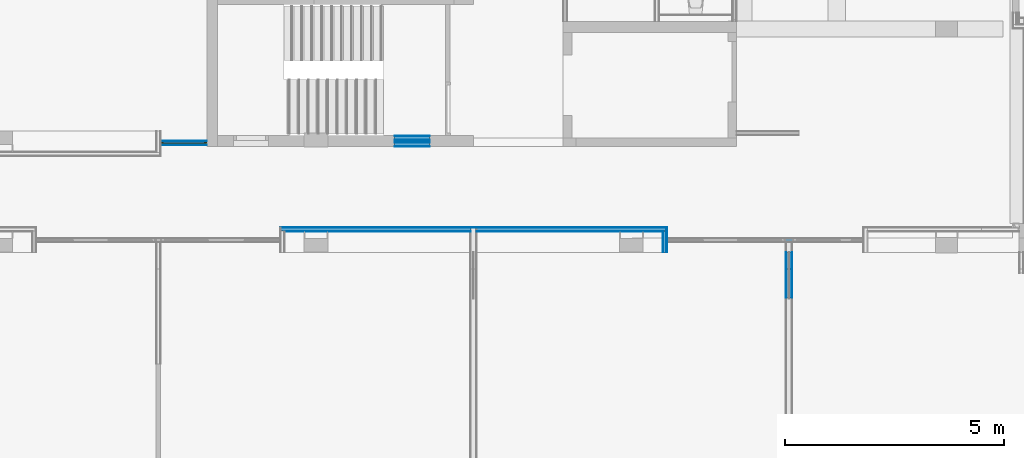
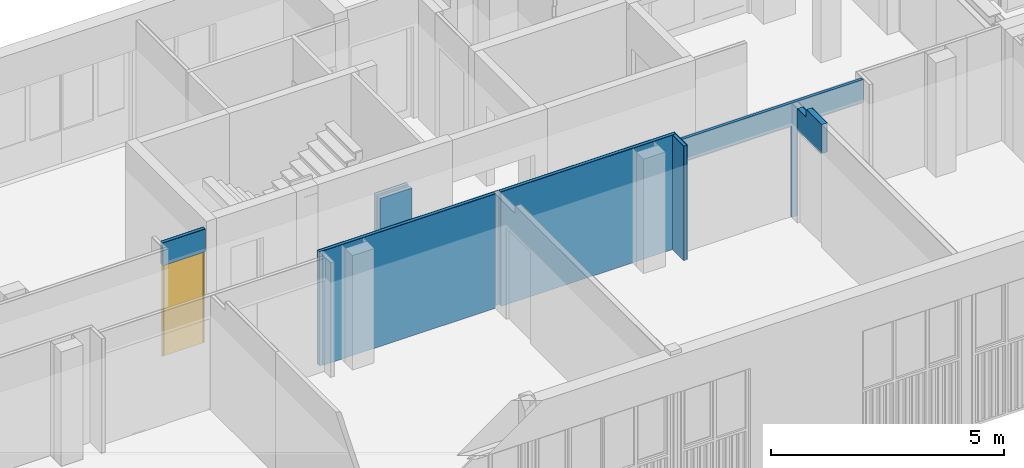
# One storey, part 74 of 117: 22 building element parts, 1 door, 3 openings, 8 elements without a shape of their own.
"""IFC2X3 building model written with IfcOpenShell, lengths in millimetres."""

from ifc_helpers import new_model, entity, si_unit, converted_unit, derived_unit, money_unit, direction, frame, origin_with_axes, place, context, subcontext, project, spatial, open_shell, faceted_brep, surface_model, material, type_object, element, fill, aggregate, save


model = new_model("IFC2X3")

# Units and contexts
model_context = context("Model", 3, precision=0.01, world=origin_with_axes(), true_north=direction((0.0, 1.0)))
body_context = subcontext(model_context, "Body", "Model", "MODEL_VIEW")
ifc_project = project(units=[si_unit("LENGTHUNIT", "METRE", prefix="MILLI"), si_unit("AREAUNIT", "SQUARE_METRE"), si_unit("VOLUMEUNIT", "CUBIC_METRE"), converted_unit("PLANEANGLEUNIT", "DEGREE", entity("IfcPlaneAngleMeasure", 0.0174532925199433), si_unit("PLANEANGLEUNIT", "RADIAN"), dimensions=[0, 0, 0, 0, 0, 0, 0]), money_unit("EUR"), converted_unit("TIMEUNIT", "Year", entity("IfcTimeMeasure", 31557600.0), si_unit("TIMEUNIT", "SECOND"), dimensions=[0, 0, 1, 0, 0, 0, 0]), si_unit("MASSUNIT", "GRAM", prefix="KILO"), si_unit("THERMODYNAMICTEMPERATUREUNIT", "DEGREE_CELSIUS"), si_unit("LUMINOUSINTENSITYUNIT", "LUMEN"), si_unit("ENERGYUNIT", "JOULE", prefix="MEGA"), derived_unit("THERMALCONDUCTANCEUNIT", [(si_unit("POWERUNIT", "WATT"), 1), (si_unit("LENGTHUNIT", "METRE"), -1), (si_unit("THERMODYNAMICTEMPERATUREUNIT", "KELVIN"), -1)]), derived_unit("SPECIFICHEATCAPACITYUNIT", [(si_unit("ENERGYUNIT", "JOULE"), 1), (si_unit("MASSUNIT", "GRAM", prefix="KILO"), -1), (si_unit("THERMODYNAMICTEMPERATUREUNIT", "KELVIN"), -1)]), derived_unit("MASSDENSITYUNIT", [(si_unit("MASSUNIT", "GRAM", prefix="KILO"), 1), (si_unit("VOLUMEUNIT", "CUBIC_METRE"), -1)])], contexts=[model_context])

# Site, building, storey
site_placement = place(None, origin_with_axes())
site = spatial("IfcSite", under=ifc_project, at=site_placement, Name="Site", CompositionType="ELEMENT")
building_placement = place(site_placement, origin_with_axes())
building = spatial("IfcBuilding", under=site, at=building_placement, Name="Naam gebouw", CompositionType="ELEMENT")
storey_placement = place(building_placement, frame((0.0, 0.0, 4150.0), z_axis=(0.0, 0.0, 1.0), x_axis=(1.0, 0.0, 0.0)))
storey = spatial("IfcBuildingStorey", under=building, at=storey_placement, Name="1e verdieping N", CompositionType="ELEMENT", Elevation=4150.0)

# Door
door_style = type_object("IfcDoorStyle", Name="D1 zl2 27", ConstructionType="NOTDEFINED", OperationType="USERDEFINED", ParameterTakesPrecedence=False, Sizeable=False)
wall_6_placement = place(storey_placement, frame((10850.0, 12825.85635739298, 0.0), z_axis=(0.0, 0.0, 1.0), x_axis=(1.0, 0.0, 0.0)))
opening_3_placement = place(wall_6_placement, frame((527.7502592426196, 0.0, 0.0), z_axis=(0.0, 0.0, 1.0), x_axis=(1.0, 0.0, 0.0)))
door_placement = place(opening_3_placement, frame((-527.7502592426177, 0.0, 0.0), z_axis=(0.0, 0.0, 1.0), x_axis=(1.0, 0.0, 0.0)))
door = element("IfcDoor", 1, at=door_placement, inside=storey, type_object=door_style, Name="_Merk-x", ObjectType="DOOR", OverallHeight=2400.0, OverallWidth=1055.5, context=body_context, shape_type="SurfaceModel", body=[
    faceted_brep([(0.0, 9.999999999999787, 0.0), (29.99999999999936, 9.999999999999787, 0.0), (29.99999999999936, -9.999999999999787, 0.0), (0.0, -9.999999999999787, 0.0), (0.0, 9.999999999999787, 2370.0), (29.99999999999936, 9.999999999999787, 2370.0), (29.99999999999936, 9.999999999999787, 30.00000000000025), (29.99999999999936, -9.999999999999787, 30.00000000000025), (29.99999999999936, -9.999999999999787, 2370.0), (0.0, -9.999999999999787, 2370.0)], [[[0, 1, 2, 3]], [[0, 4, 5, 6, 1]], [[1, 6, 7, 2]], [[3, 2, 7, 8, 9]], [[4, 0, 3, 9]], [[5, 4, 9, 8]], [[6, 5, 8, 7]]]),
    faceted_brep([(77.7881246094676, -9.000000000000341, 0.0), (77.7881246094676, -9.000000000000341, 2370.0), (77.7881246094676, -9.999999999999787, 2370.0), (77.7881246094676, -9.999999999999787, 0.0), (60.78812460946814, -9.000000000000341, 2370.0), (60.78812460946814, -9.000000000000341, 0.0), (60.78812460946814, 9.999999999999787, 2370.0), (47.78812460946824, 9.999999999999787, 2370.0), (47.78812460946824, -9.999999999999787, 2370.0), (47.78812460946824, -9.999999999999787, 0.0), (47.78812460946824, -9.999999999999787, 30.00000000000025), (47.78812460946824, 9.999999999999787, 0.0), (60.78812460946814, 9.999999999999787, 0.0), (47.78812460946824, 9.999999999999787, 30.00000000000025)], [[[0, 1, 2, 3]], [[4, 1, 0, 5]], [[4, 6, 7, 8, 2, 1]], [[9, 3, 2, 8, 10]], [[5, 0, 3, 9, 11, 12]], [[6, 4, 5, 12]], [[6, 12, 11, 13, 7]], [[13, 10, 8, 7]], [[11, 9, 10, 13]]]),
    faceted_brep([(29.99999999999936, 9.999999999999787, 30.00000000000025), (29.99999999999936, 9.999999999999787, 0.0), (29.99999999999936, -9.999999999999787, 0.0), (29.99999999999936, -9.999999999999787, 30.00000000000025), (47.78812460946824, 9.999999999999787, 30.00000000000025), (47.78812460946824, 9.999999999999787, 0.0), (47.78812460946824, -9.999999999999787, 0.0), (47.78812460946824, -9.999999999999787, 30.00000000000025)], [[[0, 1, 2, 3]], [[0, 4, 5, 1]], [[1, 5, 6, 2]], [[3, 2, 6, 7]], [[4, 0, 3, 7]], [[5, 4, 7, 6]]]),
    faceted_brep([(1055.500518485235, 9.999999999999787, 0.0), (1055.500518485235, 9.999999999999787, 2370.0), (1055.500518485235, -9.999999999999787, 2370.0), (1055.500518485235, -9.999999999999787, 0.0), (1025.500518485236, 9.999999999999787, 0.0), (1025.500518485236, 9.999999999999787, 30.00000000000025), (1025.500518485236, 9.999999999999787, 2370.0), (1025.500518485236, -9.999999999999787, 2370.0), (1025.500518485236, -9.999999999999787, 30.00000000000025), (1025.500518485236, -9.999999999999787, 0.0)], [[[0, 1, 2, 3]], [[0, 4, 5, 6, 1]], [[1, 6, 7, 2]], [[3, 2, 7, 8, 9]], [[4, 0, 3, 9]], [[5, 4, 9, 8]], [[6, 5, 8, 7]]]),
    faceted_brep([(994.7881246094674, -9.000000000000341, 2370.0), (977.788124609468, -9.000000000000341, 2370.0), (977.788124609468, -9.999999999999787, 2370.0), (1007.788124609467, -9.999999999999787, 2370.0), (1007.788124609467, 9.999999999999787, 2370.0), (994.7881246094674, 9.999999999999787, 2370.0), (994.7881246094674, -9.000000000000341, 0.0), (977.788124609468, -9.000000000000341, 0.0), (977.788124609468, -9.999999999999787, 0.0), (1007.788124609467, -9.999999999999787, 0.0), (1007.788124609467, -9.999999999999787, 30.00000000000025), (1007.788124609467, 9.999999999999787, 30.00000000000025), (994.7881246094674, 9.999999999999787, 0.0), (1007.788124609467, 9.999999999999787, 0.0)], [[[0, 1, 2, 3, 4, 5]], [[1, 0, 6, 7]], [[1, 7, 8, 2]], [[8, 9, 10, 3, 2]], [[4, 3, 10, 11]], [[12, 5, 4, 11, 13]], [[0, 5, 12, 6]], [[6, 12, 13, 9, 8, 7]], [[11, 10, 9, 13]]]),
    faceted_brep([(1007.788124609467, 9.999999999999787, 30.00000000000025), (1007.788124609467, 9.999999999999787, 0.0), (1007.788124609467, -9.999999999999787, 0.0), (1007.788124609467, -9.999999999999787, 30.00000000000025), (1025.500518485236, 9.999999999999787, 30.00000000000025), (1025.500518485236, 9.999999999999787, 0.0), (1025.500518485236, -9.999999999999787, 0.0), (1025.500518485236, -9.999999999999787, 30.00000000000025)], [[[0, 1, 2, 3]], [[0, 4, 5, 1]], [[1, 5, 6, 2]], [[3, 2, 6, 7]], [[4, 0, 3, 7]], [[5, 4, 7, 6]]]),
    faceted_brep([(60.78812460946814, 9.999999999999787, 2387.0), (60.78812460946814, 9.999999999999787, 2370.0), (47.78812460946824, 9.999999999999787, 2370.0), (29.99999999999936, 9.999999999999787, 2370.0), (0.0, 9.999999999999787, 2370.0), (0.0, 9.999999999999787, 2400.0), (1055.500518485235, 9.999999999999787, 2400.0), (1055.500518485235, 9.999999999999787, 2370.0), (1025.500518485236, 9.999999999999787, 2370.0), (1007.788124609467, 9.999999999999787, 2370.0), (994.7881246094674, 9.999999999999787, 2370.0), (994.7881246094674, 9.999999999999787, 2387.0), (60.78812460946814, -9.000000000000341, 2387.0), (60.78812460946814, -9.000000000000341, 2370.0), (977.788124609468, -9.000000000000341, 2370.0), (977.788124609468, -9.999999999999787, 2370.0), (77.7881246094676, -9.999999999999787, 2370.0), (47.78812460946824, -9.999999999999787, 2370.0), (29.99999999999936, -9.999999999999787, 2370.0), (0.0, -9.999999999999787, 2370.0), (0.0, -9.999999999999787, 2400.0), (1055.500518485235, -9.999999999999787, 2400.0), (1055.500518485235, -9.999999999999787, 2370.0), (1025.500518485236, -9.999999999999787, 2370.0), (994.7881246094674, -9.000000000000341, 2370.0), (1007.788124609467, -9.999999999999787, 2370.0), (994.7881246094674, -9.000000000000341, 2387.0)], [[[0, 1, 2, 3, 4, 5, 6, 7, 8, 9, 10, 11]], [[1, 0, 12, 13]], [[13, 14, 15, 16, 17, 2, 1]], [[2, 17, 18, 3]], [[3, 18, 19, 4]], [[4, 19, 20, 5]], [[5, 20, 21, 6]], [[6, 21, 22, 7]], [[7, 22, 23, 8]], [[24, 10, 9, 8, 23, 25, 15, 14]], [[11, 10, 24, 26]], [[0, 11, 26, 12]], [[24, 14, 13, 12, 26]], [[23, 22, 21, 20, 19, 18, 17, 16, 15, 25]]]),
    faceted_brep([(994.7881246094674, 0.9999999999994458, 0.0), (994.7881246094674, -9.000000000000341, 0.0), (60.78812460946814, -9.000000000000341, 0.0), (60.78812460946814, 0.9999999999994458, 0.0), (994.7881246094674, 0.9999999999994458, 2387.0), (994.7881246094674, -9.000000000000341, 2387.0), (60.78812460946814, -9.000000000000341, 2387.0), (60.78812460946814, 0.9999999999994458, 2387.0)], [[[0, 1, 2, 3]], [[4, 5, 1, 0]], [[1, 5, 6, 2]], [[3, 2, 6, 7]], [[0, 3, 7, 4]], [[7, 6, 5, 4]]]),
    surface_model("IfcShellBasedSurfaceModel", [(29.99999999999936, 9.000000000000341, 30.00000000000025), (29.99999999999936, 9.000000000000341, 2370.0), (47.78812460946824, 9.000000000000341, 2370.0), (47.78812460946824, 9.000000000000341, 30.00000000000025)], [open_shell([[[0, 1, 2, 3]]])]),
    surface_model("IfcShellBasedSurfaceModel", [(29.99999999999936, 0.9999999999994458, 30.00000000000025), (47.78812460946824, 0.9999999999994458, 30.00000000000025), (47.78812460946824, 0.9999999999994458, 2370.0), (29.99999999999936, 0.9999999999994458, 2370.0)], [open_shell([[[0, 1, 2, 3]]])]),
    surface_model("IfcShellBasedSurfaceModel", [(1007.788124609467, 9.000000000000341, 30.00000000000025), (1007.788124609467, 9.000000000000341, 2370.0), (1025.500518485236, 9.000000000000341, 2370.0), (1025.500518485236, 9.000000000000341, 30.00000000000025)], [open_shell([[[0, 1, 2, 3]]])]),
    surface_model("IfcShellBasedSurfaceModel", [(1007.788124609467, 0.9999999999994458, 30.00000000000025), (1025.500518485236, 0.9999999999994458, 30.00000000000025), (1025.500518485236, 0.9999999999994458, 2370.0), (1007.788124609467, 0.9999999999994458, 2370.0)], [open_shell([[[0, 1, 2, 3]]])]),
])

# Wall, building element parts
wall_type_1 = type_object("IfcWallType", Name="Metalstud iso 100 100", PredefinedType="NOTDEFINED")
wall_1_placement = place(storey_placement, frame((18075.0, 10805.91242510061, 0.0), z_axis=(0.0, 0.0, 1.0), x_axis=(1.0, 0.0, 0.0)))
wall_1 = element("IfcWall", 2, at=wall_1_placement, inside=storey, type_object=wall_type_1, Name="_Wand-x")
ifc_material_1 = material(Name="Gipsplaat")
building_element_part_1_placement = place(wall_1_placement, origin_with_axes())
building_element_part_1 = element("IfcBuildingElementPart", 3, at=building_element_part_1_placement, material=ifc_material_1, Name="Gipsplaat", context=body_context, shape_type="Brep", body=[
    faceted_brep([(0.0, 99.99999999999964, 2990.000000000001), (4340.000000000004, 99.99999999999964, 2990.000000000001), (4340.000000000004, 99.99999999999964, 0.0), (0.0, 99.99999999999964, 0.0), (4340.000000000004, 87.50000000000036, 2990.000000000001), (0.0, 87.50000000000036, 2990.000000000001), (4340.000000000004, 87.50000000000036, 0.0), (0.0, 87.50000000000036, 0.0)], [[[0, 1, 2, 3]], [[4, 1, 0, 5]], [[1, 4, 6, 2]], [[2, 6, 7, 3]], [[5, 0, 3, 7]], [[4, 5, 7, 6]]]),
])
building_element_part_2_placement = place(wall_1_placement, origin_with_axes())
building_element_part_2 = element("IfcBuildingElementPart", 4, at=building_element_part_2_placement, material=ifc_material_1, Name="Gipsplaat", context=body_context, shape_type="Brep", body=[
    faceted_brep([(0.0, 12.50000000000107, 2990.000000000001), (4252.500000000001, 12.50000000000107, 2990.000000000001), (4252.500000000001, 12.50000000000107, 0.0), (0.0, 12.49999999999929, 0.0), (4252.500000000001, 0.0, 2990.000000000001), (0.0, 0.0, 2990.000000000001), (4252.500000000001, 0.0, 0.0), (0.0, 0.0, 0.0)], [[[0, 1, 2, 3]], [[4, 1, 0, 5]], [[1, 4, 6, 2]], [[2, 6, 7, 3]], [[5, 0, 3, 7]], [[4, 5, 7, 6]]]),
])
ifc_material_2 = material(Name="Isolatie - Steenwol LSW")
building_element_part_3_placement = place(wall_1_placement, origin_with_axes())
building_element_part_3 = element("IfcBuildingElementPart", 5, at=building_element_part_3_placement, material=ifc_material_2, Name="Isolatie - Steenwol LSW", context=body_context, shape_type="Brep", body=[
    faceted_brep([(0.0, 87.50000000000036, 2990.000000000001), (4327.500000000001, 87.50000000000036, 2990.000000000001), (4327.500000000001, 87.50000000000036, 0.0), (0.0, 87.50000000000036, 0.0), (4327.500000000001, 12.50000000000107, 2990.000000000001), (0.0, 12.50000000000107, 2990.000000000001), (4327.500000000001, 12.50000000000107, 0.0), (0.0, 12.49999999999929, 0.0)], [[[0, 1, 2, 3]], [[4, 1, 0, 5]], [[1, 4, 6, 2]], [[2, 6, 7, 3]], [[5, 0, 3, 7]], [[4, 5, 7, 6]]]),
])
aggregate(wall_1, [building_element_part_1, building_element_part_2, building_element_part_3])

wall_2_placement = place(storey_placement, frame((22315.0, 10330.91242510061, 0.0), z_axis=(0.0, 0.0, 1.0), x_axis=(0.0, 1.0, 0.0)))
wall_2 = element("IfcWall", 6, at=wall_2_placement, inside=storey, type_object=wall_type_1, Name="_Wand-x")
building_element_part_4_placement = place(wall_2_placement, origin_with_axes())
building_element_part_4 = element("IfcBuildingElementPart", 7, at=building_element_part_4_placement, material=ifc_material_1, Name="Gipsplaat", context=body_context, shape_type="Brep", body=[
    faceted_brep([(474.9999999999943, 0.0, 2990.000000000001), (474.9999999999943, -12.49999999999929, 2990.000000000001), (474.9999999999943, -12.49999999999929, 0.0), (474.9999999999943, 0.0, 0.0), (0.0, -12.49999999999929, 2990.000000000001), (0.0, 0.0, 2990.000000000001), (0.0, -12.49999999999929, 0.0), (0.0, 0.0, 0.0)], [[[0, 1, 2, 3]], [[4, 1, 0, 5]], [[1, 4, 6, 2]], [[3, 2, 6, 7]], [[5, 0, 3, 7]], [[4, 5, 7, 6]]]),
])
building_element_part_5_placement = place(wall_2_placement, origin_with_axes())
building_element_part_5 = element("IfcBuildingElementPart", 8, at=building_element_part_5_placement, material=ifc_material_1, Name="Gipsplaat", context=body_context, shape_type="Brep", body=[
    faceted_brep([(562.4999999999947, -87.49999999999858, 2990.000000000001), (562.4999999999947, -100.0000000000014, 2990.000000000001), (562.4999999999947, -100.0000000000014, 0.0), (562.4999999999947, -87.49999999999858, 0.0), (0.0, -100.0000000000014, 2990.000000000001), (0.0, -87.49999999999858, 2990.000000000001), (0.0, -100.0000000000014, 0.0), (0.0, -87.49999999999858, 0.0)], [[[0, 1, 2, 3]], [[4, 1, 0, 5]], [[1, 4, 6, 2]], [[3, 2, 6, 7]], [[5, 0, 3, 7]], [[4, 5, 7, 6]]]),
])
building_element_part_6_placement = place(wall_2_placement, origin_with_axes())
building_element_part_6 = element("IfcBuildingElementPart", 9, at=building_element_part_6_placement, material=ifc_material_2, Name="Isolatie - Steenwol LSW", context=body_context, shape_type="Brep", body=[
    faceted_brep([(487.4999999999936, -12.49999999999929, 2990.000000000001), (487.4999999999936, -87.49999999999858, 2990.000000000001), (487.4999999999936, -87.49999999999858, 0.0), (487.4999999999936, -12.49999999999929, 0.0), (0.0, -87.49999999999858, 2990.000000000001), (0.0, -12.49999999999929, 2990.000000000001), (0.0, -87.49999999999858, 0.0), (0.0, -12.49999999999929, 0.0)], [[[0, 1, 2, 3]], [[4, 1, 0, 5]], [[1, 4, 6, 2]], [[3, 2, 6, 7]], [[5, 0, 3, 7]], [[4, 5, 7, 6]]]),
])
aggregate(wall_2, [building_element_part_4, building_element_part_5, building_element_part_6])

wall_3_placement = place(storey_placement, frame((16196.75079845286, 12894.60803964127, 799.9999999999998), z_axis=(0.0, 0.0, 1.0), x_axis=(1.0, 0.0, 0.0)))
wall_3 = element("IfcWall", 10, at=wall_3_placement, inside=storey, type_object=wall_type_1, Name="_Wand-x")
building_element_part_7_placement = place(wall_3_placement, origin_with_axes())
building_element_part_7 = element("IfcBuildingElementPart", 11, at=building_element_part_7_placement, material=ifc_material_1, Name="Gipsplaat", context=body_context, shape_type="Brep", body=[
    faceted_brep([(800.0000000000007, 87.50000000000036, 1500.0), (800.0000000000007, 99.99999999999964, 1500.0), (0.0, 99.99999999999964, 1500.0), (0.0, 87.50000000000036, 1500.0), (800.0000000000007, 87.50000000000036, 0.0), (800.0000000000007, 99.99999999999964, 0.0), (0.0, 99.99999999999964, 0.0), (0.0, 87.50000000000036, 0.0)], [[[0, 1, 2, 3]], [[0, 4, 5, 1]], [[1, 5, 6, 2]], [[3, 2, 6, 7]], [[4, 0, 3, 7]], [[5, 4, 7, 6]]]),
])
building_element_part_8_placement = place(wall_3_placement, origin_with_axes())
building_element_part_8 = element("IfcBuildingElementPart", 12, at=building_element_part_8_placement, material=ifc_material_2, Name="Isolatie - Steenwol LSW", context=body_context, shape_type="Brep", body=[
    faceted_brep([(800.0000000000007, 12.49999999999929, 1500.0), (800.0000000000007, 87.50000000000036, 1500.0), (0.0, 87.50000000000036, 1500.0), (0.0, 12.49999999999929, 1500.0), (800.0000000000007, 12.49999999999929, 0.0), (800.0000000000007, 87.50000000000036, 0.0), (0.0, 87.50000000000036, 0.0), (0.0, 12.49999999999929, 0.0)], [[[0, 1, 2, 3]], [[0, 4, 5, 1]], [[1, 5, 6, 2]], [[3, 2, 6, 7]], [[4, 0, 3, 7]], [[5, 4, 7, 6]]]),
])
building_element_part_9_placement = place(wall_3_placement, origin_with_axes())
building_element_part_9 = element("IfcBuildingElementPart", 13, at=building_element_part_9_placement, material=ifc_material_1, Name="Gipsplaat", context=body_context, shape_type="Brep", body=[
    faceted_brep([(800.0000000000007, 0.0, 1500.0), (800.0000000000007, 12.49999999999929, 1500.0), (0.0, 12.49999999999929, 1500.0), (0.0, 0.0, 1500.0), (800.0000000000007, 0.0, 0.0), (800.0000000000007, 12.49999999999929, 0.0), (0.0, 12.49999999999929, 0.0), (0.0, 0.0, 0.0)], [[[0, 1, 2, 3]], [[0, 4, 5, 1]], [[1, 5, 6, 2]], [[3, 2, 6, 7]], [[4, 0, 3, 7]], [[5, 4, 7, 6]]]),
])
aggregate(wall_3, [building_element_part_7, building_element_part_8, building_element_part_9])

wall_4_placement = place(storey_placement, frame((17925.0, 10805.91242510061, 0.0), z_axis=(0.0, 0.0, 1.0), x_axis=(-1.0, 0.0, 0.0)))
wall_4 = element("IfcWall", 14, at=wall_4_placement, inside=storey, type_object=wall_type_1, Name="_Wand-x")
building_element_part_10_placement = place(wall_4_placement, origin_with_axes())
building_element_part_10 = element("IfcBuildingElementPart", 15, at=building_element_part_10_placement, material=ifc_material_1, Name="Gipsplaat", context=body_context, shape_type="Brep", body=[
    faceted_brep([(4252.500000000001, -12.49999999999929, 2990.000000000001), (-12.50000000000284, -12.49999999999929, 2990.000000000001), (-12.50000000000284, -12.49999999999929, 0.0), (4252.500000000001, -12.50000000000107, 0.0), (-12.50000000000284, 0.0, 2990.000000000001), (4252.500000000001, 0.0, 2990.000000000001), (-12.50000000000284, 0.0, 0.0), (4252.500000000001, 0.0, 0.0)], [[[0, 1, 2, 3]], [[4, 1, 0, 5]], [[1, 4, 6, 2]], [[7, 3, 2, 6]], [[5, 0, 3, 7]], [[4, 5, 7, 6]]]),
])
building_element_part_11_placement = place(wall_4_placement, origin_with_axes())
building_element_part_11 = element("IfcBuildingElementPart", 16, at=building_element_part_11_placement, material=ifc_material_2, Name="Isolatie - Steenwol LSW", context=body_context, shape_type="Brep", body=[
    faceted_brep([(4327.500000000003, -87.50000000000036, 2990.000000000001), (-12.50000000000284, -87.50000000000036, 2990.000000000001), (-12.50000000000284, -87.50000000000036, 0.0), (4327.500000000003, -87.50000000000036, 0.0), (-12.50000000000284, -12.49999999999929, 2990.000000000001), (4327.500000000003, -12.49999999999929, 2990.000000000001), (-12.50000000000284, -12.49999999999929, 0.0), (4327.500000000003, -12.50000000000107, 0.0)], [[[0, 1, 2, 3]], [[4, 1, 0, 5]], [[1, 4, 6, 2]], [[7, 3, 2, 6]], [[5, 0, 3, 7]], [[4, 5, 7, 6]]]),
])
building_element_part_12_placement = place(wall_4_placement, origin_with_axes())
building_element_part_12 = element("IfcBuildingElementPart", 17, at=building_element_part_12_placement, material=ifc_material_1, Name="Gipsplaat", context=body_context, shape_type="Brep", body=[
    faceted_brep([(4340.000000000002, -99.99999999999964, 2990.000000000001), (-150.0000000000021, -99.99999999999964, 2990.000000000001), (-150.0000000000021, -99.99999999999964, 0.0), (4340.000000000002, -99.99999999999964, 0.0), (-150.0000000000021, -87.50000000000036, 2990.000000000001), (4340.000000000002, -87.50000000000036, 2990.000000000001), (-150.0000000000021, -87.50000000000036, 0.0), (4340.000000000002, -87.50000000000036, 0.0)], [[[0, 1, 2, 3]], [[4, 1, 0, 5]], [[1, 4, 6, 2]], [[7, 3, 2, 6]], [[5, 0, 3, 7]], [[4, 5, 7, 6]]]),
])
aggregate(wall_4, [building_element_part_10, building_element_part_11, building_element_part_12])

# Wall, openings, building element part
wall_5_placement = place(storey_placement, frame((22415.00000000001, 10605.91242510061, 0.0), z_axis=(0.0, 0.0, 1.0), x_axis=(1.0, 0.0, 0.0)))
wall_5 = element("IfcWall", 18, at=wall_5_placement, inside=storey, type_object=wall_type_1, Name="_Wand-x")
opening_1_placement = place(wall_5_placement, frame((3672.499999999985, 0.0, 0.0), z_axis=(0.0, 0.0, 1.0), x_axis=(1.0, 0.0, 0.0)))
element("IfcOpeningElement", 19, at=opening_1_placement, cuts=wall_5, Name="_Merk-x", context=body_context, shape_type="Brep", body=[
    faceted_brep([(-812.5, 9.999999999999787, 0.0), (-812.5, 9.999999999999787, 2400.0), (-812.5, 51.00000000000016, 2400.0), (-812.5, 51.00000000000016, 0.0), (-812.5, -51.00000000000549, 0.0), (-812.5, -51.00000000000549, 2400.0), (812.5, 9.999999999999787, 2400.0), (812.5, 51.00000000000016, 2400.0), (812.5, -51.00000000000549, 2400.0), (812.5, 51.00000000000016, 0.0), (812.5, 9.99999999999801, 0.0), (812.5, -51.00000000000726, 0.0)], [[[0, 1, 2, 3]], [[1, 0, 4, 5]], [[6, 7, 2, 1, 5, 8]], [[7, 9, 3, 2]], [[0, 3, 9, 10, 11, 4]], [[5, 4, 11, 8]], [[6, 10, 9, 7]], [[10, 6, 8, 11]]]),
])
opening_2_placement = place(wall_5_placement, frame((1354.999999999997, 0.0, 0.0), z_axis=(0.0, 0.0, 1.0), x_axis=(1.0, 0.0, 0.0)))
element("IfcOpeningElement", 20, at=opening_2_placement, cuts=wall_5, Name="_Merk-x", context=body_context, shape_type="Brep", body=[
    faceted_brep([(-1354.999999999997, 9.999999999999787, 0.0), (-1354.999999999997, 9.999999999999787, 2400.0), (-1354.999999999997, 51.00000000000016, 2400.0), (-1354.999999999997, 51.00000000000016, 0.0), (-1354.999999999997, -51.00000000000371, 0.0), (-1354.999999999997, -51.00000000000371, 2400.0), (1354.999999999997, 9.999999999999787, 2400.0), (1354.999999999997, 51.00000000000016, 2400.0), (1354.999999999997, -51.00000000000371, 2400.0), (1354.999999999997, 51.00000000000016, 0.0), (1354.999999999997, 9.99999999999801, 0.0), (1354.999999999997, -51.00000000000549, 0.0)], [[[0, 1, 2, 3]], [[1, 0, 4, 5]], [[6, 7, 2, 1, 5, 8]], [[7, 9, 3, 2]], [[0, 3, 9, 10, 11, 4]], [[5, 4, 11, 8]], [[6, 10, 9, 7]], [[10, 6, 8, 11]]]),
])
building_element_part_13_placement = place(wall_5_placement, origin_with_axes())
building_element_part_13 = element("IfcBuildingElementPart", 21, at=building_element_part_13_placement, material=ifc_material_2, Name="Isolatie - Steenwol LSW", context=body_context, shape_type="Brep", body=[
    faceted_brep([(2709.999999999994, 9.99999999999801, 0.0), (2709.999999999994, -37.49999999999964, 0.0), (2709.999999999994, -37.49999999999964, 2400.0), (2709.999999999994, 37.49999999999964, 2400.0), (2709.999999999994, 37.49999999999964, 0.0), (2859.999999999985, 37.49999999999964, 0.0), (2859.999999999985, -37.49999999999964, 0.0), (2859.999999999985, -37.49999999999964, 2400.0), (4484.999999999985, -37.49999999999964, 2400.0), (4484.999997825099, -37.49999999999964, 2990.000000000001), (0.0, -37.49999999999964, 2990.000000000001), (0.0, -37.49999999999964, 2400.0), (0.0, 9.999999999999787, 2400.0), (0.0, 37.49999999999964, 2400.0), (2859.999999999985, 37.49999999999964, 2400.0), (0.0, 37.49999999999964, 2990.000000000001), (4484.999997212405, 37.49999999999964, 2990.000000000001), (4484.999999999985, 37.49999999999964, 2400.0)], [[[0, 1, 2, 3, 4]], [[1, 0, 4, 5, 6]], [[2, 1, 6, 7, 8, 9, 10, 11]], [[3, 2, 11, 12, 13]], [[14, 5, 4, 3, 13, 15, 16, 17]], [[5, 14, 7, 6]], [[14, 17, 8, 7]], [[16, 9, 8, 17]], [[9, 16, 15, 10]], [[12, 11, 10, 15, 13]]]),
])
aggregate(wall_5, [building_element_part_13])

# Wall, opening
wall_6 = element("IfcWall", 22, at=wall_6_placement, inside=storey, type_object=wall_type_1, Name="_Wand-x")
opening_3 = element("IfcOpeningElement", 23, at=opening_3_placement, cuts=wall_6, Name="_Merk-x", context=body_context, shape_type="Brep", body=[
    faceted_brep([(527.7502592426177, -10.00000000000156, 0.0), (527.7502592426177, -9.999999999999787, 2400.0), (527.7502592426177, -51.00000000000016, 2400.0), (527.7502592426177, -51.00000000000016, 0.0), (527.7502592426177, 51.00000000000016, 0.0), (527.7502592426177, 51.00000000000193, 2400.0), (-527.7502592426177, -9.999999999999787, 2400.0), (-527.7502592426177, -51.00000000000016, 2400.0), (-527.7502592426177, 51.00000000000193, 2400.0), (-527.7502592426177, -51.00000000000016, 0.0), (-527.7502592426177, -10.00000000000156, 0.0), (-527.7502592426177, 51.00000000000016, 0.0)], [[[0, 1, 2, 3]], [[1, 0, 4, 5]], [[6, 7, 2, 1, 5, 8]], [[7, 9, 3, 2]], [[0, 3, 9, 10, 11, 4]], [[5, 4, 11, 8]], [[6, 10, 9, 7]], [[10, 6, 8, 11]]]),
])

fill(opening_3, door)

# Building element part
building_element_part_14_placement = place(wall_6_placement, origin_with_axes())
building_element_part_14 = element("IfcBuildingElementPart", 24, at=building_element_part_14_placement, material=ifc_material_2, Name="Isolatie - Steenwol LSW", context=body_context, shape_type="Brep", body=[
    faceted_brep([(1055.500518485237, -9.999999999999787, 2400.0), (1055.500518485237, 37.49999999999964, 2400.0), (1055.500518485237, 37.49999999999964, 2990.000000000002), (1055.500518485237, -37.49999999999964, 2990.000000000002), (1055.500518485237, -37.49999999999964, 2400.0), (0.0, -9.999999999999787, 2400.0), (0.0, 37.49999999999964, 2400.0), (0.0, -37.49999999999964, 2400.0), (0.0, 37.49999999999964, 2990.000000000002), (0.0, -37.49999999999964, 2990.000000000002)], [[[0, 1, 2, 3, 4]], [[5, 6, 1, 0, 4, 7]], [[1, 6, 8, 2]], [[8, 9, 3, 2]], [[4, 3, 9, 7]], [[6, 5, 7, 9, 8]]]),
])

building_element_part_15_placement = place(wall_6_placement, origin_with_axes())
building_element_part_15 = element("IfcBuildingElementPart", 25, at=building_element_part_15_placement, material=ifc_material_1, Name="Gipsplaat", context=body_context, shape_type="Brep", body=[
    faceted_brep([(1055.500518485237, -49.99999999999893, 2400.0), (1055.500518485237, -37.49999999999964, 2400.0), (1055.500518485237, -37.49999999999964, 2990.000000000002), (1055.500518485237, -49.99999999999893, 2990.000000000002), (0.0, -37.49999999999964, 2400.0), (0.0, -49.99999999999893, 2400.0), (0.0, -37.49999999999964, 2990.000000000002), (0.0, -49.99999999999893, 2990.000000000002)], [[[0, 1, 2, 3]], [[4, 1, 0, 5]], [[1, 4, 6, 2]], [[2, 6, 7, 3]], [[5, 0, 3, 7]], [[4, 5, 7, 6]]]),
])

building_element_part_16_placement = place(wall_6_placement, origin_with_axes())
building_element_part_16 = element("IfcBuildingElementPart", 26, at=building_element_part_16_placement, material=ifc_material_1, Name="Gipsplaat", context=body_context, shape_type="Brep", body=[
    faceted_brep([(1055.500518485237, 37.49999999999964, 2400.0), (1055.500518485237, 50.00000000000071, 2400.0), (1055.500518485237, 50.00000000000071, 2990.000000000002), (1055.500518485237, 37.49999999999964, 2990.000000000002), (0.0, 50.00000000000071, 2400.0), (0.0, 37.49999999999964, 2400.0), (0.0, 50.00000000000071, 2990.000000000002), (0.0, 37.49999999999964, 2990.000000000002)], [[[0, 1, 2, 3]], [[4, 1, 0, 5]], [[1, 4, 6, 2]], [[2, 6, 7, 3]], [[5, 0, 3, 7]], [[4, 5, 7, 6]]]),
])

aggregate(wall_6, [building_element_part_14, building_element_part_15, building_element_part_16])

# Wall, building element parts
wall_type_2 = type_object("IfcWallType", Name="Metalstud iso 150 150", PredefinedType="NOTDEFINED")
wall_7_placement = place(storey_placement, frame((25200.0, 9290.91242510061, 2440.0), z_axis=(0.0, 0.0, 1.0), x_axis=(0.0, 1.0, 0.0)))
wall_7 = element("IfcWall", 27, at=wall_7_placement, inside=storey, type_object=wall_type_2, Name="_Wand-x")
building_element_part_17_placement = place(wall_7_placement, origin_with_axes())
building_element_part_17 = element("IfcBuildingElementPart", 28, at=building_element_part_17_placement, material=ifc_material_1, Name="Gipsplaat", context=body_context, shape_type="Brep", body=[
    faceted_brep([(1040.000000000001, 74.99999999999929, 550.0000000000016), (1040.000000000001, 62.5, 550.0000000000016), (1040.000000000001, 62.5, 0.0), (1040.000000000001, 74.99999999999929, 0.0), (655.0000000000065, 62.5, 550.0000000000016), (655.0000000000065, 74.99999999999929, 550.0000000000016), (655.0000000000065, 62.5, 760.0000000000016), (0.0, 62.5, 760.0000000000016), (0.0, 62.5, 0.0), (0.0, 74.99999999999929, 0.0), (0.0, 74.99999999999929, 760.0000000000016), (655.0000000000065, 74.99999999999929, 760.0000000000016)], [[[0, 1, 2, 3]], [[4, 1, 0, 5]], [[4, 6, 7, 8, 2, 1]], [[9, 3, 2, 8]], [[5, 0, 3, 9, 10, 11]], [[11, 6, 4, 5]], [[6, 11, 10, 7]], [[10, 9, 8, 7]]]),
])
building_element_part_18_placement = place(wall_7_placement, origin_with_axes())
building_element_part_18 = element("IfcBuildingElementPart", 29, at=building_element_part_18_placement, material=ifc_material_2, Name="Isolatie - Steenwol LSW", context=body_context, shape_type="Brep", body=[
    faceted_brep([(1040.000000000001, 62.5, 550.0000000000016), (1040.000000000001, -62.5, 550.0000000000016), (1040.000000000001, -62.5, 0.0), (1040.000000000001, 62.5, 0.0), (655.0000000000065, -62.5, 550.0000000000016), (655.0000000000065, 62.5, 550.0000000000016), (655.0000000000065, -62.5, 760.0000000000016), (0.0, -62.5, 760.0000000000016), (0.0, -62.5, 0.0), (0.0, 62.5, 0.0), (0.0, 62.5, 760.0000000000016), (655.0000000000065, 62.5, 760.0000000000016)], [[[0, 1, 2, 3]], [[4, 1, 0, 5]], [[4, 6, 7, 8, 2, 1]], [[9, 3, 2, 8]], [[5, 0, 3, 9, 10, 11]], [[11, 6, 4, 5]], [[6, 11, 10, 7]], [[10, 9, 8, 7]]]),
])
building_element_part_19_placement = place(wall_7_placement, origin_with_axes())
building_element_part_19 = element("IfcBuildingElementPart", 30, at=building_element_part_19_placement, material=ifc_material_1, Name="Gipsplaat", context=body_context, shape_type="Brep", body=[
    faceted_brep([(1040.000000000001, -62.5, 550.0000000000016), (1040.000000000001, -74.99999999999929, 550.0000000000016), (1040.000000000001, -74.99999999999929, 0.0), (1040.000000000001, -62.5, 0.0), (655.0000000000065, -74.99999999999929, 550.0000000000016), (655.0000000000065, -62.5, 550.0000000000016), (655.0000000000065, -74.99999999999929, 760.0000000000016), (0.0, -74.99999999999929, 760.0000000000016), (0.0, -74.99999999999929, 0.0), (0.0, -62.5, 0.0), (0.0, -62.5, 760.0000000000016), (655.0000000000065, -62.5, 760.0000000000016)], [[[0, 1, 2, 3]], [[4, 1, 0, 5]], [[4, 6, 7, 8, 2, 1]], [[9, 3, 2, 8]], [[5, 0, 3, 9, 10, 11]], [[11, 6, 4, 5]], [[6, 11, 10, 7]], [[10, 9, 8, 7]]]),
])
aggregate(wall_7, [building_element_part_17, building_element_part_18, building_element_part_19])

wall_8_placement = place(storey_placement, frame((16196.75079845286, 12844.60803964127, 799.9999999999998), z_axis=(0.0, 0.0, 1.0), x_axis=(1.0, 0.0, 0.0)))
wall_8 = element("IfcWall", 31, at=wall_8_placement, inside=storey, type_object=wall_type_1, Name="_Wand-x")
building_element_part_20_placement = place(wall_8_placement, origin_with_axes())
building_element_part_20 = element("IfcBuildingElementPart", 32, at=building_element_part_20_placement, material=ifc_material_1, Name="Gipsplaat", context=body_context, shape_type="Brep", body=[
    faceted_brep([(800.0000000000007, 0.0, 0.0), (800.0000000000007, -12.49999999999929, 0.0), (0.0, -12.49999999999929, 0.0), (0.0, 0.0, 0.0), (800.0000000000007, 0.0, 1500.0), (800.0000000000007, -12.49999999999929, 1500.0), (0.0, -12.49999999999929, 1500.0), (0.0, 0.0, 1500.0)], [[[0, 1, 2, 3]], [[0, 4, 5, 1]], [[1, 5, 6, 2]], [[3, 2, 6, 7]], [[4, 0, 3, 7]], [[5, 4, 7, 6]]]),
])
building_element_part_21_placement = place(wall_8_placement, origin_with_axes())
building_element_part_21 = element("IfcBuildingElementPart", 33, at=building_element_part_21_placement, material=ifc_material_1, Name="Gipsplaat", context=body_context, shape_type="Brep", body=[
    faceted_brep([(800.0000000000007, -87.50000000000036, 0.0), (800.0000000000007, -99.99999999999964, 0.0), (0.0, -99.99999999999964, 0.0), (0.0, -87.50000000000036, 0.0), (800.0000000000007, -87.50000000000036, 1500.0), (800.0000000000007, -99.99999999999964, 1500.0), (0.0, -99.99999999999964, 1500.0), (0.0, -87.50000000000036, 1500.0)], [[[0, 1, 2, 3]], [[0, 4, 5, 1]], [[1, 5, 6, 2]], [[3, 2, 6, 7]], [[4, 0, 3, 7]], [[5, 4, 7, 6]]]),
])
building_element_part_22_placement = place(wall_8_placement, origin_with_axes())
building_element_part_22 = element("IfcBuildingElementPart", 34, at=building_element_part_22_placement, material=ifc_material_2, Name="Isolatie - Steenwol LSW", context=body_context, shape_type="Brep", body=[
    faceted_brep([(800.0000000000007, -12.49999999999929, 0.0), (800.0000000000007, -87.50000000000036, 0.0), (0.0, -87.50000000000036, 0.0), (0.0, -12.49999999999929, 0.0), (800.0000000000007, -12.49999999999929, 1500.0), (800.0000000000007, -87.50000000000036, 1500.0), (0.0, -87.50000000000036, 1500.0), (0.0, -12.49999999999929, 1500.0)], [[[0, 1, 2, 3]], [[0, 4, 5, 1]], [[1, 5, 6, 2]], [[3, 2, 6, 7]], [[4, 0, 3, 7]], [[5, 4, 7, 6]]]),
])
aggregate(wall_8, [building_element_part_20, building_element_part_21, building_element_part_22])

save(model, "model.ifc")
